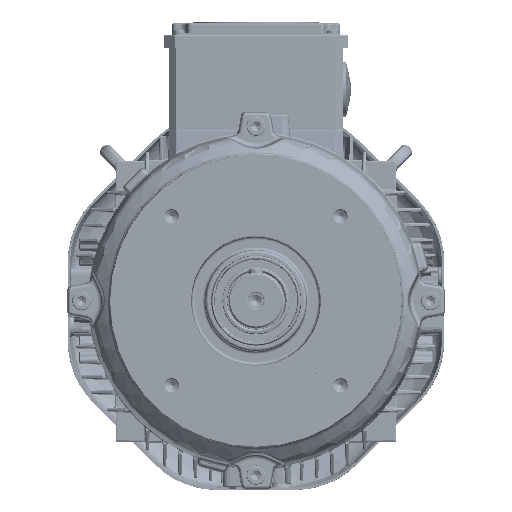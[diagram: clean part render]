
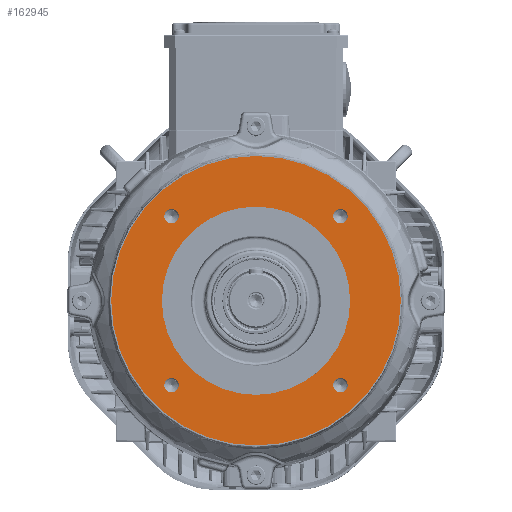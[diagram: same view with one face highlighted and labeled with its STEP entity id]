
A CAD part, top view. The second image highlights one B-rep face of the part: STEP entity #162945.
In plain terms, the highlighted planar face has unit normal (0, 0, 1).
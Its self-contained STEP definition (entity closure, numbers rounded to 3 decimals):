
#51218=PLANE('',#210567);
#56893=EDGE_LOOP('',(#81967));
#56894=EDGE_LOOP('',(#81968));
#56895=EDGE_LOOP('',(#81969));
#56896=EDGE_LOOP('',(#81970));
#56897=EDGE_LOOP('',(#81971));
#56898=EDGE_LOOP('',(#81972));
#81967=ORIENTED_EDGE('',*,*,#134990,.T.);
#81968=ORIENTED_EDGE('',*,*,#134991,.T.);
#81969=ORIENTED_EDGE('',*,*,#134992,.T.);
#81970=ORIENTED_EDGE('',*,*,#134993,.T.);
#81971=ORIENTED_EDGE('',*,*,#134994,.T.);
#81972=ORIENTED_EDGE('',*,*,#134995,.F.);
#134990=EDGE_CURVE('',#180551,#180551,#196985,.T.);
#134991=EDGE_CURVE('',#180552,#180552,#196986,.T.);
#134992=EDGE_CURVE('',#180553,#180553,#196987,.T.);
#134993=EDGE_CURVE('',#180554,#180554,#196988,.T.);
#134994=EDGE_CURVE('',#180555,#180555,#196989,.T.);
#134995=EDGE_CURVE('',#180556,#180556,#196990,.T.);
#162945=ADVANCED_FACE('',(#174950,#174951,#174952,#174953,#174954,#174955),
#51218,.T.);
#174950=FACE_BOUND('',#56893,.T.);
#174951=FACE_BOUND('',#56894,.T.);
#174952=FACE_BOUND('',#56895,.T.);
#174953=FACE_BOUND('',#56896,.T.);
#174954=FACE_BOUND('',#56897,.T.);
#174955=FACE_BOUND('',#56898,.T.);
#180551=VERTEX_POINT('',#340471);
#180552=VERTEX_POINT('',#340473);
#180553=VERTEX_POINT('',#340475);
#180554=VERTEX_POINT('',#340477);
#180555=VERTEX_POINT('',#340479);
#180556=VERTEX_POINT('',#340481);
#196985=CIRCLE('',#210561,5.);
#196986=CIRCLE('',#210562,5.);
#196987=CIRCLE('',#210563,5.);
#196988=CIRCLE('',#210564,5.);
#196989=CIRCLE('',#210565,65.);
#196990=CIRCLE('',#210566,100.);
#210561=AXIS2_PLACEMENT_3D('',#340470,#239941,#239942);
#210562=AXIS2_PLACEMENT_3D('',#340472,#239943,#239944);
#210563=AXIS2_PLACEMENT_3D('',#340474,#239945,#239946);
#210564=AXIS2_PLACEMENT_3D('',#340476,#239947,#239948);
#210565=AXIS2_PLACEMENT_3D('',#340478,#239949,#239950);
#210566=AXIS2_PLACEMENT_3D('',#340480,#239951,#239952);
#210567=AXIS2_PLACEMENT_3D('',#340482,#239953,#239954);
#239941=DIRECTION('',(0.,0.,-1.));
#239942=DIRECTION('',(-1.,0.,0.));
#239943=DIRECTION('',(0.,0.,-1.));
#239944=DIRECTION('',(-1.,0.,0.));
#239945=DIRECTION('',(0.,0.,-1.));
#239946=DIRECTION('',(-1.,0.,0.));
#239947=DIRECTION('',(0.,0.,-1.));
#239948=DIRECTION('',(-1.,0.,0.));
#239949=DIRECTION('',(0.,0.,-1.));
#239950=DIRECTION('',(1.,0.,0.));
#239951=DIRECTION('',(0.,0.,-1.));
#239952=DIRECTION('',(1.,0.,0.));
#239953=DIRECTION('',(0.,0.,1.));
#239954=DIRECTION('',(-1.,0.,0.));
#340470=CARTESIAN_POINT('',(58.335,-58.34,72.497));
#340471=CARTESIAN_POINT('',(53.335,-58.34,72.497));
#340472=CARTESIAN_POINT('',(58.335,58.333,72.491));
#340473=CARTESIAN_POINT('',(53.335,58.333,72.491));
#340474=CARTESIAN_POINT('',(-58.337,-58.34,72.498));
#340475=CARTESIAN_POINT('',(-63.337,-58.34,72.498));
#340476=CARTESIAN_POINT('',(-58.337,58.333,72.493));
#340477=CARTESIAN_POINT('',(-63.337,58.333,72.493));
#340478=CARTESIAN_POINT('',(-0.001,-0.004,
72.495));
#340479=CARTESIAN_POINT('',(64.999,-0.004,72.494));
#340480=CARTESIAN_POINT('',(-0.001,-0.004,
72.495));
#340481=CARTESIAN_POINT('',(99.999,-0.004,72.494));
#340482=CARTESIAN_POINT('',(-0.001,-0.004,
72.495));
